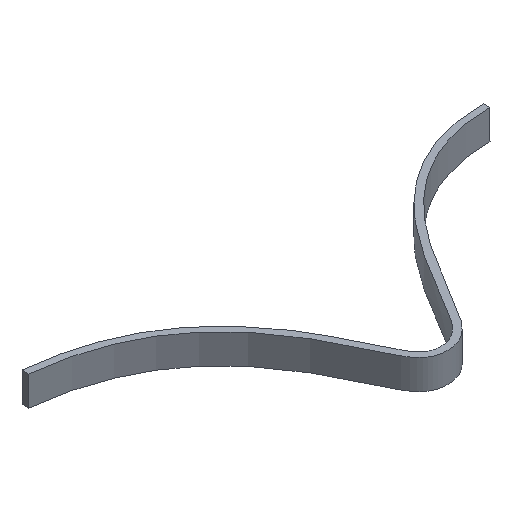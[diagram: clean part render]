
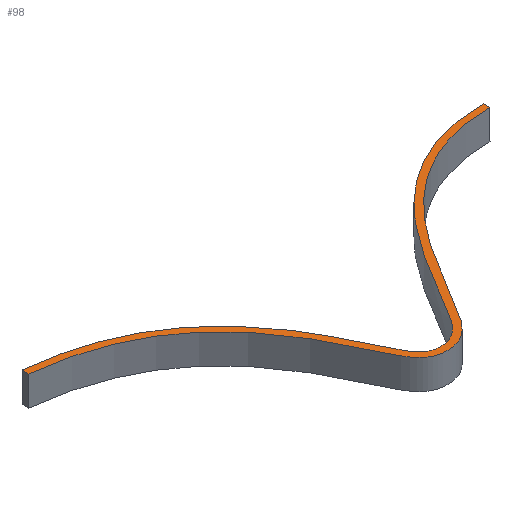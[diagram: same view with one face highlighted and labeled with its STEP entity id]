
A CAD part, isometric view. The second image highlights one B-rep face of the part: STEP entity #98.
In plain terms, the highlighted planar face has unit normal (0, 0, 1).
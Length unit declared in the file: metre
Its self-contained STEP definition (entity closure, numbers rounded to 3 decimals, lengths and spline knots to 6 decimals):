
#13=B_SPLINE_CURVE_WITH_KNOTS('',3,(#187,#188,#189,#190,#191,#192,#193),
 .UNSPECIFIED.,.F.,.F.,(4,1,1,1,4),(0.,0.378048,0.50674,
0.615592,1.),.UNSPECIFIED.);
#15=B_SPLINE_CURVE_WITH_KNOTS('',3,(#288,#289,#290,#291,#292,#293,#294,
#295,#296,#297,#298,#299,#300,#301,#302,#303,#304,#305,#306,#307,#308,#309,
#310,#311,#312,#313,#314,#315,#316,#317,#318,#319,#320,#321,#322,#323,#324,
#325,#326,#327),.UNSPECIFIED.,.F.,.F.,(4,1,1,1,1,1,1,1,1,1,1,1,1,1,1,1,
1,1,1,1,1,1,1,1,1,1,1,1,1,1,1,1,1,1,1,1,1,4),(0.,0.0625,0.09375,0.125,0.1875,
0.25,0.28125,0.3125,0.34375,0.359375,0.375,0.390625,0.40625,0.421875,0.4375,
0.453125,0.46875,0.484375,0.5,0.507813,0.515625,0.53125,0.546875,0.5625,
0.578125,0.59375,0.609375,0.625,0.640625,0.65625,0.6875,0.71875,0.75,0.78125,
0.8125,0.875,0.9375,1.),.UNSPECIFIED.);
#34=ORIENTED_EDGE('',*,*,#44,.F.);
#35=ORIENTED_EDGE('',*,*,#53,.F.);
#36=ORIENTED_EDGE('',*,*,#50,.F.);
#37=ORIENTED_EDGE('',*,*,#47,.F.);
#44=EDGE_CURVE('',#56,#57,#64,.T.);
#47=EDGE_CURVE('',#57,#59,#13,.F.);
#50=EDGE_CURVE('',#59,#61,#68,.T.);
#53=EDGE_CURVE('',#61,#56,#15,.T.);
#56=VERTEX_POINT('',#141);
#57=VERTEX_POINT('',#143);
#59=VERTEX_POINT('',#194);
#61=VERTEX_POINT('',#200);
#64=LINE('',#142,#72);
#68=LINE('',#199,#76);
#72=VECTOR('',#123,1.);
#76=VECTOR('',#129,1.);
#82=EDGE_LOOP('',(#34,#35,#36,#37));
#88=FACE_BOUND('',#82,.T.);
#92=PLANE('',#115);
#98=ADVANCED_FACE('',(#88),#92,.F.);
#115=AXIS2_PLACEMENT_3D('',#328,#131,#132);
#123=DIRECTION('',(0.105,0.994,0.));
#129=DIRECTION('',(0.,-1.,0.));
#131=DIRECTION('',(0.,0.,-1.));
#132=DIRECTION('',(0.,1.,0.));
#141=CARTESIAN_POINT('',(-0.087657,-0.010819,0.199856));
#142=CARTESIAN_POINT('',(-0.087657,-0.010819,0.199856));
#143=CARTESIAN_POINT('',(-0.08751,-0.009437,0.199856));
#187=CARTESIAN_POINT('',(0.006138,-0.009437,0.199856));
#188=CARTESIAN_POINT('',(-0.019877,-0.009437,0.199856));
#189=CARTESIAN_POINT('',(-0.032465,-0.045719,0.199856));
#190=CARTESIAN_POINT('',(-0.0405,-0.048184,0.199856));
#191=CARTESIAN_POINT('',(-0.047972,-0.046724,0.199856));
#192=CARTESIAN_POINT('',(-0.054706,-0.012917,0.199856));
#193=CARTESIAN_POINT('',(-0.08751,-0.009437,0.199856));
#194=CARTESIAN_POINT('',(0.006138,-0.009437,0.199856));
#199=CARTESIAN_POINT('',(0.006138,-0.009437,0.199856));
#200=CARTESIAN_POINT('',(0.006138,-0.010827,0.199856));
#288=CARTESIAN_POINT('',(0.006138,-0.010827,0.199856));
#289=CARTESIAN_POINT('',(0.001996,-0.010827,0.199856));
#290=CARTESIAN_POINT('',(-0.003517,-0.01189,0.199856));
#291=CARTESIAN_POINT('',(-0.009748,-0.014831,0.199856));
#292=CARTESIAN_POINT('',(-0.015307,-0.018606,0.199856));
#293=CARTESIAN_POINT('',(-0.021109,-0.024542,0.199856));
#294=CARTESIAN_POINT('',(-0.025632,-0.031113,0.199856));
#295=CARTESIAN_POINT('',(-0.028642,-0.036133,0.199856));
#296=CARTESIAN_POINT('',(-0.03064,-0.03963,0.199856));
#297=CARTESIAN_POINT('',(-0.032132,-0.042197,0.199856));
#298=CARTESIAN_POINT('',(-0.033252,-0.043977,0.199856));
#299=CARTESIAN_POINT('',(-0.034069,-0.045164,0.199856));
#300=CARTESIAN_POINT('',(-0.034879,-0.046183,0.199856));
#301=CARTESIAN_POINT('',(-0.035676,-0.047027,0.199856));
#302=CARTESIAN_POINT('',(-0.036471,-0.047716,0.199856));
#303=CARTESIAN_POINT('',(-0.037268,-0.04826,0.199856));
#304=CARTESIAN_POINT('',(-0.038065,-0.048668,0.199856));
#305=CARTESIAN_POINT('',(-0.038852,-0.048949,0.199856));
#306=CARTESIAN_POINT('',(-0.039613,-0.049118,0.199856));
#307=CARTESIAN_POINT('',(-0.040216,-0.049188,0.199856));
#308=CARTESIAN_POINT('',(-0.040669,-0.049213,0.199856));
#309=CARTESIAN_POINT('',(-0.04113,-0.049224,0.199856));
#310=CARTESIAN_POINT('',(-0.041741,-0.049199,0.199856));
#311=CARTESIAN_POINT('',(-0.042518,-0.049065,0.199856));
#312=CARTESIAN_POINT('',(-0.043318,-0.04879,0.199856));
#313=CARTESIAN_POINT('',(-0.044106,-0.048352,0.199856));
#314=CARTESIAN_POINT('',(-0.044855,-0.047749,0.199856));
#315=CARTESIAN_POINT('',(-0.045559,-0.046983,0.199856));
#316=CARTESIAN_POINT('',(-0.046226,-0.046042,0.199856));
#317=CARTESIAN_POINT('',(-0.046859,-0.044964,0.199856));
#318=CARTESIAN_POINT('',(-0.047708,-0.04334,0.199856));
#319=CARTESIAN_POINT('',(-0.048822,-0.040986,0.199856));
#320=CARTESIAN_POINT('',(-0.050357,-0.037741,0.199856));
#321=CARTESIAN_POINT('',(-0.052181,-0.034199,0.199856));
#322=CARTESIAN_POINT('',(-0.054379,-0.030489,0.199856));
#323=CARTESIAN_POINT('',(-0.057921,-0.025493,0.199856));
#324=CARTESIAN_POINT('',(-0.063699,-0.019483,0.199856));
#325=CARTESIAN_POINT('',(-0.073486,-0.013655,0.199856));
#326=CARTESIAN_POINT('',(-0.08244,-0.011373,0.199856));
#327=CARTESIAN_POINT('',(-0.087657,-0.010819,0.199856));
#328=CARTESIAN_POINT('',(-0.040433,-0.047806,0.199856));
